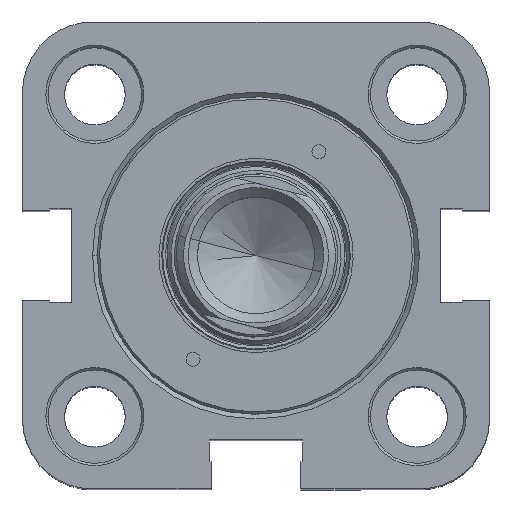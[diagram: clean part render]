
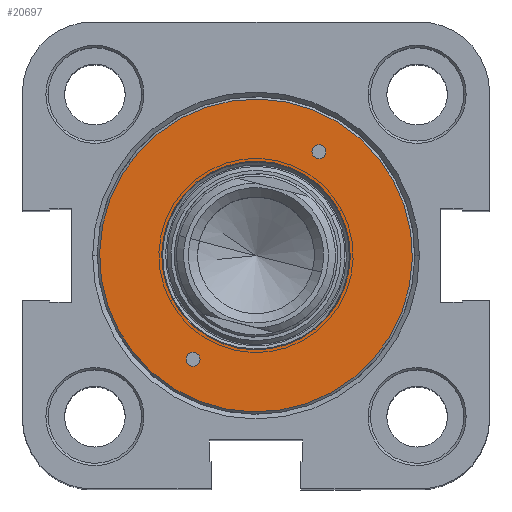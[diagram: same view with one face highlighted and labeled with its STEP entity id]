
A CAD part, top view. The second image highlights one B-rep face of the part: STEP entity #20697.
In plain terms, the highlighted planar face has unit normal (0, 0, 1) as drawn and (-1, 0, 0) by its records, which use the part's own axes.
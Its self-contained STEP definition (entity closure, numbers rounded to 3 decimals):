
#143 = CIRCLE ( 'NONE', #20936, 33.5 ) ;
#314 = AXIS2_PLACEMENT_3D ( 'NONE', #6285, #12680, #2772 ) ;
#403 = VERTEX_POINT ( 'NONE', #5118 ) ;
#450 = VERTEX_POINT ( 'NONE', #19493 ) ;
#467 = EDGE_CURVE ( 'NONE', #9807, #13179, #18458, .T. ) ;
#1194 = ORIENTED_EDGE ( 'NONE', *, *, #17428, .T. ) ;
#1754 = VERTEX_POINT ( 'NONE', #18793 ) ;
#1874 = DIRECTION ( 'NONE',  ( 0., 0., -1. ) ) ;
#2029 = DIRECTION ( 'NONE',  ( 1., 0., 0. ) ) ;
#2274 = CARTESIAN_POINT ( 'NONE',  ( 0., 0., -33.5 ) ) ;
#2635 = FACE_BOUND ( 'NONE', #5974, .T. ) ;
#2772 = DIRECTION ( 'NONE',  ( 0., 0., -1. ) ) ;
#2876 = EDGE_LOOP ( 'NONE', ( #19810, #5205 ) ) ;
#3210 = DIRECTION ( 'NONE',  ( 0., 0., -1. ) ) ;
#3411 = CARTESIAN_POINT ( 'NONE',  ( 0., 17.5, 0. ) ) ;
#3417 = EDGE_CURVE ( 'NONE', #11673, #1754, #19334, .T. ) ;
#3626 = AXIS2_PLACEMENT_3D ( 'NONE', #5471, #5325, #6893 ) ;
#3688 = PLANE ( 'NONE',  #19148 ) ;
#4297 = DIRECTION ( 'NONE',  ( 1., 0., 0. ) ) ;
#4364 = DIRECTION ( 'NONE',  ( 0., 0., -1. ) ) ;
#4549 = CIRCLE ( 'NONE', #18295, 20.2 ) ;
#4622 = DIRECTION ( 'NONE',  ( -1., 0., 0. ) ) ;
#4970 = EDGE_CURVE ( 'NONE', #403, #14082, #10383, .T. ) ;
#5005 = ORIENTED_EDGE ( 'NONE', *, *, #9787, .T. ) ;
#5118 = CARTESIAN_POINT ( 'NONE',  ( 0., 0., 33.5 ) ) ;
#5205 = ORIENTED_EDGE ( 'NONE', *, *, #8163, .F. ) ;
#5325 = DIRECTION ( 'NONE',  ( -1., 0., 0. ) ) ;
#5471 = CARTESIAN_POINT ( 'NONE',  ( 0., 0., -26. ) ) ;
#5959 = DIRECTION ( 'NONE',  ( 0., 0., -1. ) ) ;
#5974 = EDGE_LOOP ( 'NONE', ( #10857, #19558 ) ) ;
#6143 = EDGE_CURVE ( 'NONE', #1754, #11673, #6842, .T. ) ;
#6254 = DIRECTION ( 'NONE',  ( -1., 0., 0. ) ) ;
#6285 = CARTESIAN_POINT ( 'NONE',  ( 0., 0., 26. ) ) ;
#6757 = CARTESIAN_POINT ( 'NONE',  ( 0., 0., 0. ) ) ;
#6842 = CIRCLE ( 'NONE', #12892, 1.5 ) ;
#6893 = DIRECTION ( 'NONE',  ( 0., 0., 1. ) ) ;
#7282 = DIRECTION ( 'NONE',  ( 0., 0., 1. ) ) ;
#7494 = AXIS2_PLACEMENT_3D ( 'NONE', #15258, #12141, #7282 ) ;
#7668 = CARTESIAN_POINT ( 'NONE',  ( 0., 0., 26. ) ) ;
#7985 = CARTESIAN_POINT ( 'NONE',  ( 0., 0., 24.5 ) ) ;
#8163 = EDGE_CURVE ( 'NONE', #13179, #9807, #15838, .T. ) ;
#8291 = DIRECTION ( 'NONE',  ( 1., 0., 0. ) ) ;
#8937 = FACE_BOUND ( 'NONE', #2876, .T. ) ;
#9248 = ORIENTED_EDGE ( 'NONE', *, *, #13507, .T. ) ;
#9741 = CARTESIAN_POINT ( 'NONE',  ( 0., 0., -27.5 ) ) ;
#9787 = EDGE_CURVE ( 'NONE', #450, #15139, #12725, .T. ) ;
#9807 = VERTEX_POINT ( 'NONE', #10917 ) ;
#10056 = DIRECTION ( 'NONE',  ( 0., 0., -1. ) ) ;
#10383 = CIRCLE ( 'NONE', #19280, 33.5 ) ;
#10580 = AXIS2_PLACEMENT_3D ( 'NONE', #14045, #4297, #4364 ) ;
#10857 = ORIENTED_EDGE ( 'NONE', *, *, #6143, .F. ) ;
#10917 = CARTESIAN_POINT ( 'NONE',  ( 0., 0., -24.5 ) ) ;
#11327 = CARTESIAN_POINT ( 'NONE',  ( 0., 0., 0. ) ) ;
#11408 = EDGE_LOOP ( 'NONE', ( #9248, #12448 ) ) ;
#11673 = VERTEX_POINT ( 'NONE', #7985 ) ;
#12141 = DIRECTION ( 'NONE',  ( -1., 0., 0. ) ) ;
#12448 = ORIENTED_EDGE ( 'NONE', *, *, #4970, .T. ) ;
#12680 = DIRECTION ( 'NONE',  ( -1., 0., 0. ) ) ;
#12725 = CIRCLE ( 'NONE', #10580, 20.2 ) ;
#12892 = AXIS2_PLACEMENT_3D ( 'NONE', #7668, #4622, #5959 ) ;
#12948 = FACE_OUTER_BOUND ( 'NONE', #11408, .T. ) ;
#13179 = VERTEX_POINT ( 'NONE', #9741 ) ;
#13507 = EDGE_CURVE ( 'NONE', #14082, #403, #143, .T. ) ;
#14045 = CARTESIAN_POINT ( 'NONE',  ( 0., 0., 0. ) ) ;
#14082 = VERTEX_POINT ( 'NONE', #2274 ) ;
#15139 = VERTEX_POINT ( 'NONE', #20159 ) ;
#15258 = CARTESIAN_POINT ( 'NONE',  ( 0., 0., -26. ) ) ;
#15838 = CIRCLE ( 'NONE', #7494, 1.5 ) ;
#17428 = EDGE_CURVE ( 'NONE', #15139, #450, #4549, .T. ) ;
#17434 = DIRECTION ( 'NONE',  ( -1., 0., 0. ) ) ;
#17572 = DIRECTION ( 'NONE',  ( 0., 0., -1. ) ) ;
#17646 = CARTESIAN_POINT ( 'NONE',  ( 0., 0., 0. ) ) ;
#18053 = FACE_BOUND ( 'NONE', #20250, .T. ) ;
#18295 = AXIS2_PLACEMENT_3D ( 'NONE', #6757, #2029, #10056 ) ;
#18458 = CIRCLE ( 'NONE', #3626, 1.5 ) ;
#18793 = CARTESIAN_POINT ( 'NONE',  ( 0., 0., 27.5 ) ) ;
#19148 = AXIS2_PLACEMENT_3D ( 'NONE', #3411, #8291, #1874 ) ;
#19280 = AXIS2_PLACEMENT_3D ( 'NONE', #11327, #6254, #3210 ) ;
#19334 = CIRCLE ( 'NONE', #314, 1.5 ) ;
#19493 = CARTESIAN_POINT ( 'NONE',  ( 0., 0., 20.2 ) ) ;
#19558 = ORIENTED_EDGE ( 'NONE', *, *, #3417, .F. ) ;
#19810 = ORIENTED_EDGE ( 'NONE', *, *, #467, .F. ) ;
#20159 = CARTESIAN_POINT ( 'NONE',  ( 0., 0., -20.2 ) ) ;
#20250 = EDGE_LOOP ( 'NONE', ( #5005, #1194 ) ) ;
#20697 = ADVANCED_FACE ( 'NONE', ( #8937, #2635, #18053, #12948 ), #3688, .F. ) ;
#20936 = AXIS2_PLACEMENT_3D ( 'NONE', #17646, #17434, #17572 ) ;
